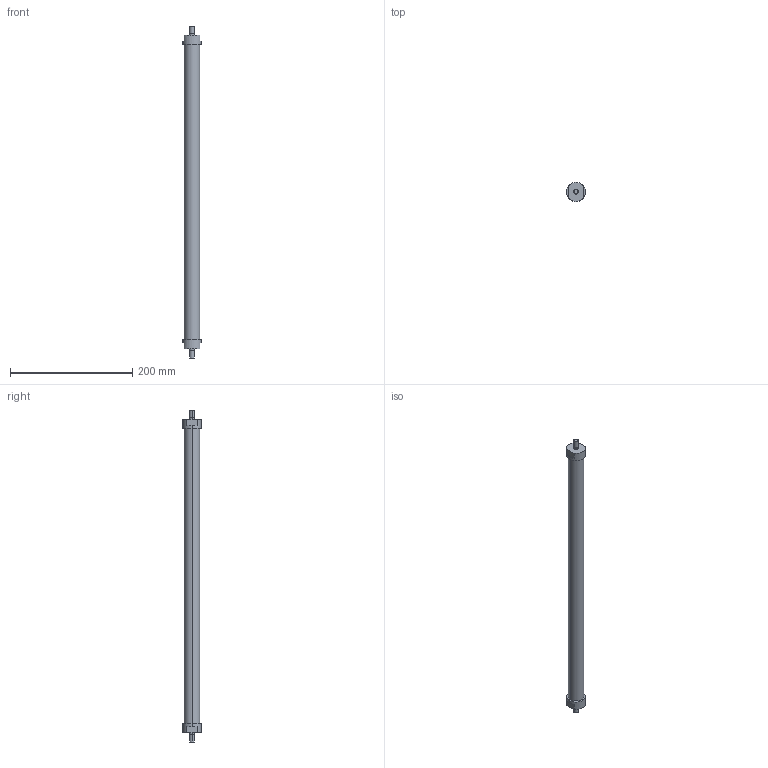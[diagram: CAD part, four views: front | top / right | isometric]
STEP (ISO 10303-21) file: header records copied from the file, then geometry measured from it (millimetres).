
FILE_DESCRIPTION(('STEP AP214'),'1');
FILE_NAME('ETT-R050N524.stp','2015-02-02T15:41:50',(' '),(' '),'Spatial InterOp 3D',' ',' ');
FILE_SCHEMA(('automotive_design'));
Length unit declared in the file: metre
Products named in the file (3): 1; 2; 3
Bounding box: 31 x 31 x 544 mm (x, y, z)
Volume: 260589 mm3; surface area: 44240.6 mm2
Topology: 1 solids, 7 shells, 30 faces, 81 edges, 63 vertices
Faces by surface type: plane 16, cylinder 14
Entity records: 1295 total; most frequent: DIRECTION 194, CARTESIAN_POINT 177, ORIENTED_EDGE 138, EDGE_CURVE 81, AXIS2_PLACEMENT_3D 80, VERTEX_POINT 63, CIRCLE 47, EDGE_LOOP 36
